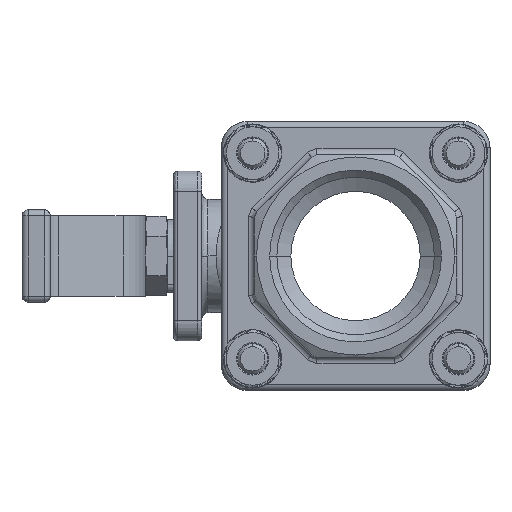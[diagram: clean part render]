
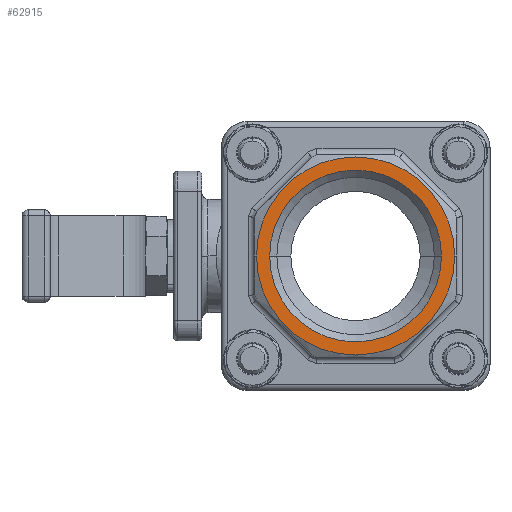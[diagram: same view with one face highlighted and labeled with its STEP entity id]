
A CAD part, left-side view. The second image highlights one B-rep face of the part: STEP entity #62915.
In plain terms, the highlighted planar face has unit normal (-1, 0, 0).
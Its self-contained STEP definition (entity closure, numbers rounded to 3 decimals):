
#3654 = ORIENTED_EDGE ( 'NONE', *, *, #64305, .F. ) ;
#8150 = DIRECTION ( 'NONE',  ( 0., -1., 0. ) ) ;
#8151 = DIRECTION ( 'NONE',  ( -1., 0., 0. ) ) ;
#8152 = AXIS2_PLACEMENT_3D ( 'NONE', #8185, #8151, #8150 ) ;
#8153 = CIRCLE ( 'NONE', #8152, 21.25 ) ;
#8185 = CARTESIAN_POINT ( 'NONE',  ( -53.2, 0., 0. ) ) ;
#19894 = EDGE_LOOP ( 'NONE', ( #62947, #62949 ) ) ;
#29729 = CARTESIAN_POINT ( 'NONE',  ( -53.2, -24.5, 0. ) ) ;
#29904 = CARTESIAN_POINT ( 'NONE',  ( -53.2, 24.5, 0. ) ) ;
#29991 = DIRECTION ( 'NONE',  ( 0., 1., 0. ) ) ;
#29992 = DIRECTION ( 'NONE',  ( -1., 0., 0. ) ) ;
#29993 = CARTESIAN_POINT ( 'NONE',  ( -53.2, 0., 0. ) ) ;
#29994 = AXIS2_PLACEMENT_3D ( 'NONE', #29993, #29992, #29991 ) ;
#29995 = CIRCLE ( 'NONE', #29994, 24.5 ) ;
#30934 = DIRECTION ( 'NONE',  ( 0., 0., 1. ) ) ;
#30935 = DIRECTION ( 'NONE',  ( 1., 0., 0. ) ) ;
#30936 = AXIS2_PLACEMENT_3D ( 'NONE', #30938, #30935, #30934 ) ;
#30938 = CARTESIAN_POINT ( 'NONE',  ( -53.2, 24.794, -24.794 ) ) ;
#30939 = PLANE ( 'NONE',  #30936 ) ;
#30946 = FACE_OUTER_BOUND ( 'NONE', #19894, .T. ) ;
#30947 = FACE_BOUND ( 'NONE', #62916, .T. ) ;
#31003 = DIRECTION ( 'NONE',  ( 0., 1., 0. ) ) ;
#31004 = DIRECTION ( 'NONE',  ( -1., 0., 0. ) ) ;
#31005 = CARTESIAN_POINT ( 'NONE',  ( -53.2, 0., 0. ) ) ;
#31006 = AXIS2_PLACEMENT_3D ( 'NONE', #31005, #31004, #31003 ) ;
#31007 = CIRCLE ( 'NONE', #31006, 24.5 ) ;
#62253 = VERTEX_POINT ( 'NONE', #29729 ) ;
#62347 = VERTEX_POINT ( 'NONE', #29904 ) ;
#62380 = EDGE_CURVE ( 'NONE', #62253, #62347, #29995, .T. ) ;
#62915 = ADVANCED_FACE ( 'NONE', ( #30947, #30946 ), #30939, .F. ) ;
#62916 = EDGE_LOOP ( 'NONE', ( #3654, #93119 ) ) ;
#62947 = ORIENTED_EDGE ( 'NONE', *, *, #62948, .T. ) ;
#62948 = EDGE_CURVE ( 'NONE', #62347, #62253, #31007, .T. ) ;
#62949 = ORIENTED_EDGE ( 'NONE', *, *, #62380, .T. ) ;
#64305 = EDGE_CURVE ( 'NONE', #67762, #67765, #8153, .T. ) ;
#67761 = EDGE_CURVE ( 'NONE', #67765, #67762, #80207, .T. ) ;
#67762 = VERTEX_POINT ( 'NONE', #80202 ) ;
#67765 = VERTEX_POINT ( 'NONE', #80200 ) ;
#80200 = CARTESIAN_POINT ( 'NONE',  ( -53.2, 21.25, 0. ) ) ;
#80202 = CARTESIAN_POINT ( 'NONE',  ( -53.2, -21.25, 0. ) ) ;
#80203 = DIRECTION ( 'NONE',  ( 0., -1., 0. ) ) ;
#80204 = DIRECTION ( 'NONE',  ( -1., 0., 0. ) ) ;
#80205 = CARTESIAN_POINT ( 'NONE',  ( -53.2, 0., 0. ) ) ;
#80206 = AXIS2_PLACEMENT_3D ( 'NONE', #80205, #80204, #80203 ) ;
#80207 = CIRCLE ( 'NONE', #80206, 21.25 ) ;
#93119 = ORIENTED_EDGE ( 'NONE', *, *, #67761, .F. ) ;
